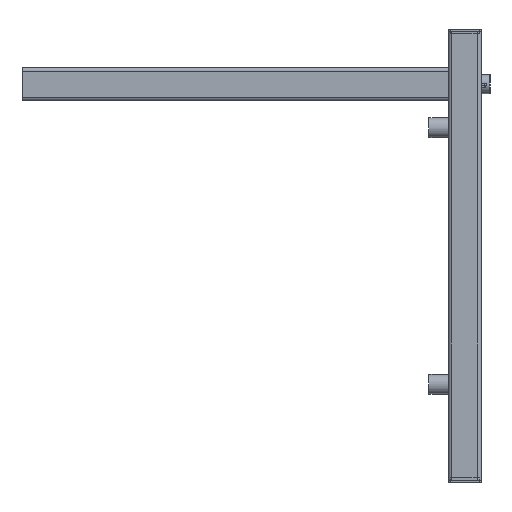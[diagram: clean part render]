
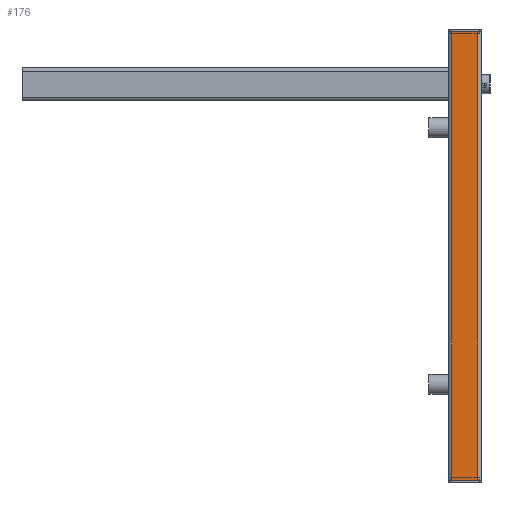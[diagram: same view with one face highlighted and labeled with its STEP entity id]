
A CAD part, left-side view. The second image highlights one B-rep face of the part: STEP entity #176.
In plain terms, the highlighted planar face has unit normal (-1, 0, 0) as drawn and (0, 0, -1) by its records, which use the part's own axes.
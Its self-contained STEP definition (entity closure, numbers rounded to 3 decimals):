
#176 = ADVANCED_FACE( '', ( #453 ), #454, .T. );
#453 = FACE_OUTER_BOUND( '', #883, .T. );
#454 = PLANE( '', #884 );
#883 = EDGE_LOOP( '', ( #1313, #1314, #1315, #1316 ) );
#884 = AXIS2_PLACEMENT_3D( '', #1317, #1318, #1319 );
#1313 = ORIENTED_EDGE( '', *, *, #2397, .F. );
#1314 = ORIENTED_EDGE( '', *, *, #2398, .T. );
#1315 = ORIENTED_EDGE( '', *, *, #2399, .T. );
#1316 = ORIENTED_EDGE( '', *, *, #2400, .T. );
#1317 = CARTESIAN_POINT( '', ( -15., 411., -15. ) );
#1318 = DIRECTION( '', ( 0., 0., -1. ) );
#1319 = DIRECTION( '', ( -1., 0., 0. ) );
#2397 = EDGE_CURVE( '', #2823, #2824, #2825, .T. );
#2398 = EDGE_CURVE( '', #2823, #2826, #2827, .F. );
#2399 = EDGE_CURVE( '', #2826, #2828, #2829, .T. );
#2400 = EDGE_CURVE( '', #2828, #2824, #2830, .T. );
#2823 = VERTEX_POINT( '', #3459 );
#2824 = VERTEX_POINT( '', #3460 );
#2825 = LINE( '', #3461, #3462 );
#2826 = VERTEX_POINT( '', #3463 );
#2827 = LINE( '', #3464, #3465 );
#2828 = VERTEX_POINT( '', #3466 );
#2829 = LINE( '', #3467, #3468 );
#2830 = LINE( '', #3469, #3470 );
#3459 = CARTESIAN_POINT( '', ( -12., 0., -15. ) );
#3460 = CARTESIAN_POINT( '', ( 12., 0., -15. ) );
#3461 = CARTESIAN_POINT( '', ( -15., 0., -15. ) );
#3462 = VECTOR( '', #4298, 1000. );
#3463 = CARTESIAN_POINT( '', ( -12., 411., -15. ) );
#3464 = CARTESIAN_POINT( '', ( -12., 411., -15. ) );
#3465 = VECTOR( '', #4299, 1000. );
#3466 = CARTESIAN_POINT( '', ( 12., 411., -15. ) );
#3467 = CARTESIAN_POINT( '', ( -15., 411., -15. ) );
#3468 = VECTOR( '', #4300, 1000. );
#3469 = CARTESIAN_POINT( '', ( 12., 411., -15. ) );
#3470 = VECTOR( '', #4301, 1000. );
#4298 = DIRECTION( '', ( 1., 0., 0. ) );
#4299 = DIRECTION( '', ( 0., -1., 0. ) );
#4300 = DIRECTION( '', ( 1., 0., 0. ) );
#4301 = DIRECTION( '', ( 0., -1., 0. ) );
